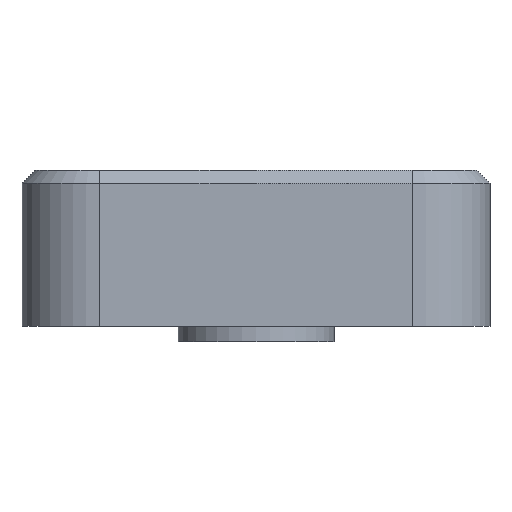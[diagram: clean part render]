
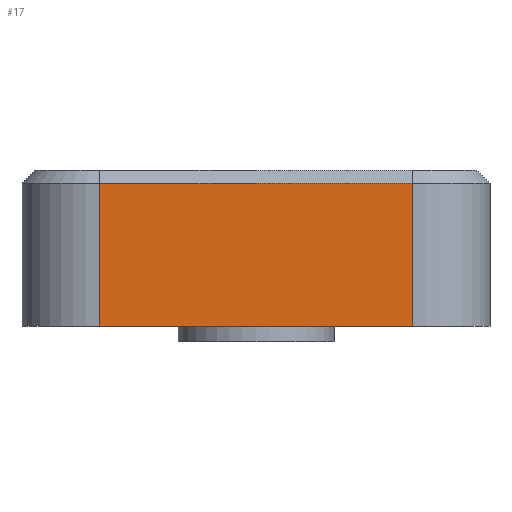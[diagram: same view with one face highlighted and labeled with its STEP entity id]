
A CAD part, left-side view. The second image highlights one B-rep face of the part: STEP entity #17.
In plain terms, the highlighted planar face has unit normal (-1, 0, 0).
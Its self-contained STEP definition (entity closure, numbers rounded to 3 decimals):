
#17 = ADVANCED_FACE('',(#18),#32,.F.);
#18 = FACE_BOUND('',#19,.F.);
#19 = EDGE_LOOP('',(#20,#55,#83,#111));
#20 = ORIENTED_EDGE('',*,*,#21,.F.);
#21 = EDGE_CURVE('',#22,#24,#26,.T.);
#22 = VERTEX_POINT('',#23);
#23 = CARTESIAN_POINT('',(-9.,-6.,0.));
#24 = VERTEX_POINT('',#25);
#25 = CARTESIAN_POINT('',(-9.,-6.,5.5));
#26 = SURFACE_CURVE('',#27,(#31,#43),.PCURVE_S1.);
#27 = LINE('',#28,#29);
#28 = CARTESIAN_POINT('',(-9.,-6.,0.));
#29 = VECTOR('',#30,1.);
#30 = DIRECTION('',(0.,0.,1.));
#31 = PCURVE('',#32,#37);
#32 = PLANE('',#33);
#33 = AXIS2_PLACEMENT_3D('',#34,#35,#36);
#34 = CARTESIAN_POINT('',(-9.,-9.,0.));
#35 = DIRECTION('',(1.,0.,0.));
#36 = DIRECTION('',(0.,0.,1.));
#37 = DEFINITIONAL_REPRESENTATION('',(#38),#42);
#38 = LINE('',#39,#40);
#39 = CARTESIAN_POINT('',(0.,-3.));
#40 = VECTOR('',#41,1.);
#41 = DIRECTION('',(1.,0.));
#42 = ( GEOMETRIC_REPRESENTATION_CONTEXT(2) 
PARAMETRIC_REPRESENTATION_CONTEXT() REPRESENTATION_CONTEXT('2D SPACE',''
  ) );
#43 = PCURVE('',#44,#49);
#44 = CYLINDRICAL_SURFACE('',#45,3.);
#45 = AXIS2_PLACEMENT_3D('',#46,#47,#48);
#46 = CARTESIAN_POINT('',(-6.,-6.,0.));
#47 = DIRECTION('',(0.,0.,1.));
#48 = DIRECTION('',(-1.,-0.,0.));
#49 = DEFINITIONAL_REPRESENTATION('',(#50),#54);
#50 = LINE('',#51,#52);
#51 = CARTESIAN_POINT('',(0.,0.));
#52 = VECTOR('',#53,1.);
#53 = DIRECTION('',(0.,1.));
#54 = ( GEOMETRIC_REPRESENTATION_CONTEXT(2) 
PARAMETRIC_REPRESENTATION_CONTEXT() REPRESENTATION_CONTEXT('2D SPACE',''
  ) );
#55 = ORIENTED_EDGE('',*,*,#56,.T.);
#56 = EDGE_CURVE('',#22,#57,#59,.T.);
#57 = VERTEX_POINT('',#58);
#58 = CARTESIAN_POINT('',(-9.,6.,0.));
#59 = SURFACE_CURVE('',#60,(#64,#71),.PCURVE_S1.);
#60 = LINE('',#61,#62);
#61 = CARTESIAN_POINT('',(-9.,-9.,0.));
#62 = VECTOR('',#63,1.);
#63 = DIRECTION('',(0.,1.,0.));
#64 = PCURVE('',#32,#65);
#65 = DEFINITIONAL_REPRESENTATION('',(#66),#70);
#66 = LINE('',#67,#68);
#67 = CARTESIAN_POINT('',(0.,0.));
#68 = VECTOR('',#69,1.);
#69 = DIRECTION('',(0.,-1.));
#70 = ( GEOMETRIC_REPRESENTATION_CONTEXT(2) 
PARAMETRIC_REPRESENTATION_CONTEXT() REPRESENTATION_CONTEXT('2D SPACE',''
  ) );
#71 = PCURVE('',#72,#77);
#72 = PLANE('',#73);
#73 = AXIS2_PLACEMENT_3D('',#74,#75,#76);
#74 = CARTESIAN_POINT('',(-9.,-9.,0.));
#75 = DIRECTION('',(0.,0.,1.));
#76 = DIRECTION('',(1.,0.,0.));
#77 = DEFINITIONAL_REPRESENTATION('',(#78),#82);
#78 = LINE('',#79,#80);
#79 = CARTESIAN_POINT('',(0.,0.));
#80 = VECTOR('',#81,1.);
#81 = DIRECTION('',(0.,1.));
#82 = ( GEOMETRIC_REPRESENTATION_CONTEXT(2) 
PARAMETRIC_REPRESENTATION_CONTEXT() REPRESENTATION_CONTEXT('2D SPACE',''
  ) );
#83 = ORIENTED_EDGE('',*,*,#84,.T.);
#84 = EDGE_CURVE('',#57,#85,#87,.T.);
#85 = VERTEX_POINT('',#86);
#86 = CARTESIAN_POINT('',(-9.,6.,5.5));
#87 = SURFACE_CURVE('',#88,(#92,#99),.PCURVE_S1.);
#88 = LINE('',#89,#90);
#89 = CARTESIAN_POINT('',(-9.,6.,0.));
#90 = VECTOR('',#91,1.);
#91 = DIRECTION('',(0.,0.,1.));
#92 = PCURVE('',#32,#93);
#93 = DEFINITIONAL_REPRESENTATION('',(#94),#98);
#94 = LINE('',#95,#96);
#95 = CARTESIAN_POINT('',(0.,-15.));
#96 = VECTOR('',#97,1.);
#97 = DIRECTION('',(1.,0.));
#98 = ( GEOMETRIC_REPRESENTATION_CONTEXT(2) 
PARAMETRIC_REPRESENTATION_CONTEXT() REPRESENTATION_CONTEXT('2D SPACE',''
  ) );
#99 = PCURVE('',#100,#105);
#100 = CYLINDRICAL_SURFACE('',#101,3.);
#101 = AXIS2_PLACEMENT_3D('',#102,#103,#104);
#102 = CARTESIAN_POINT('',(-6.,6.,0.));
#103 = DIRECTION('',(0.,0.,1.));
#104 = DIRECTION('',(-1.,-0.,0.));
#105 = DEFINITIONAL_REPRESENTATION('',(#106),#110);
#106 = LINE('',#107,#108);
#107 = CARTESIAN_POINT('',(-0.,0.));
#108 = VECTOR('',#109,1.);
#109 = DIRECTION('',(-0.,1.));
#110 = ( GEOMETRIC_REPRESENTATION_CONTEXT(2) 
PARAMETRIC_REPRESENTATION_CONTEXT() REPRESENTATION_CONTEXT('2D SPACE',''
  ) );
#111 = ORIENTED_EDGE('',*,*,#112,.F.);
#112 = EDGE_CURVE('',#24,#85,#113,.T.);
#113 = SURFACE_CURVE('',#114,(#118,#125),.PCURVE_S1.);
#114 = LINE('',#115,#116);
#115 = CARTESIAN_POINT('',(-9.,-6.,5.5));
#116 = VECTOR('',#117,1.);
#117 = DIRECTION('',(0.,1.,0.));
#118 = PCURVE('',#32,#119);
#119 = DEFINITIONAL_REPRESENTATION('',(#120),#124);
#120 = LINE('',#121,#122);
#121 = CARTESIAN_POINT('',(5.5,-3.));
#122 = VECTOR('',#123,1.);
#123 = DIRECTION('',(0.,-1.));
#124 = ( GEOMETRIC_REPRESENTATION_CONTEXT(2) 
PARAMETRIC_REPRESENTATION_CONTEXT() REPRESENTATION_CONTEXT('2D SPACE',''
  ) );
#125 = PCURVE('',#126,#131);
#126 = PLANE('',#127);
#127 = AXIS2_PLACEMENT_3D('',#128,#129,#130);
#128 = CARTESIAN_POINT('',(-8.75,-6.,5.75));
#129 = DIRECTION('',(0.707,0.,-0.707)
  );
#130 = DIRECTION('',(0.,1.,0.));
#131 = DEFINITIONAL_REPRESENTATION('',(#132),#136);
#132 = LINE('',#133,#134);
#133 = CARTESIAN_POINT('',(0.,-0.354));
#134 = VECTOR('',#135,1.);
#135 = DIRECTION('',(1.,0.));
#136 = ( GEOMETRIC_REPRESENTATION_CONTEXT(2) 
PARAMETRIC_REPRESENTATION_CONTEXT() REPRESENTATION_CONTEXT('2D SPACE',''
  ) );
